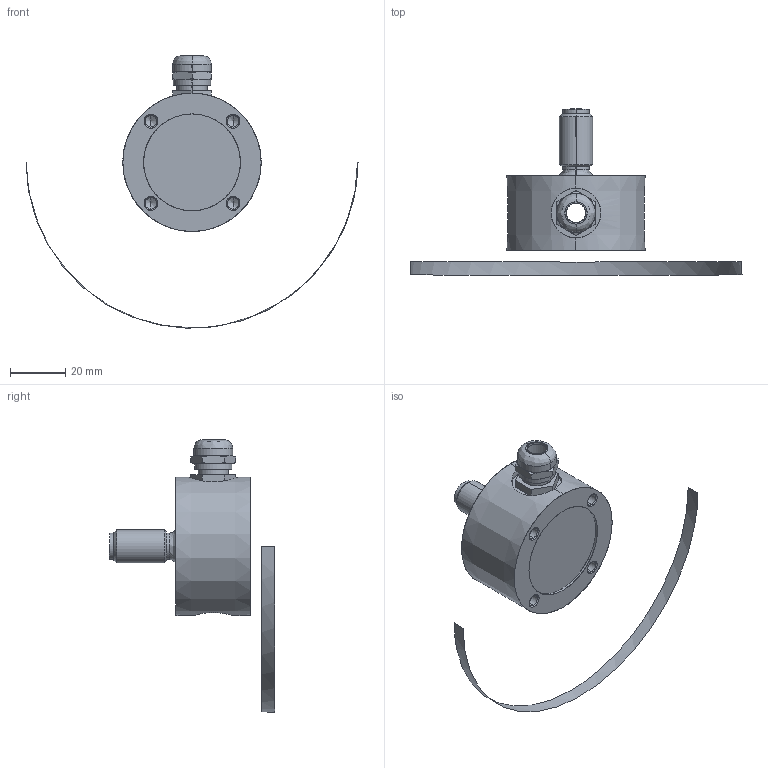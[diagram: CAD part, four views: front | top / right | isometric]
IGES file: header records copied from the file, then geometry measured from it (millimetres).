
Start section: SolidWorks IGES file using analytic representation for surfaces
Global section: file name: D:\TMP\TU-K1C.IGS; native system: SolidWorks 2013; preprocessor: SolidWorks 2013; author: Loda-w1; date: 130605.180317; units: millimetre
Bounding box: 120 x 60 x 98.48 mm (x, y, z)
Surface area: 17027.7 mm2 (no closed solid volume)
Topology: 0 solids, 0 shells, 119 faces, 1888 edges, 1879 vertices
Faces by surface type: revolution 78, bspline 41
